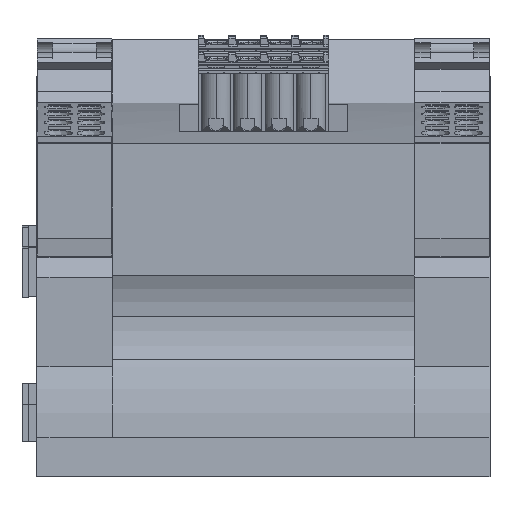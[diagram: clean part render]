
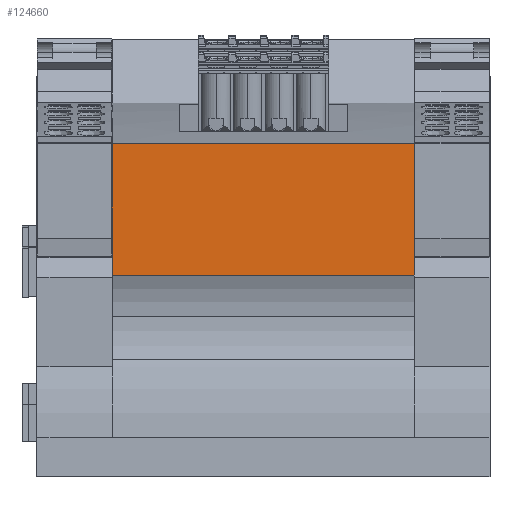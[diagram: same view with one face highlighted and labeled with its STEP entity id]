
A CAD part, front view. The second image highlights one B-rep face of the part: STEP entity #124660.
In plain terms, the highlighted planar face has unit normal (0, -1, 0) as drawn and (-1, 0, 0) by its records, which use the part's own axes.
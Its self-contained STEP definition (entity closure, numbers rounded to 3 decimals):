
#530=CARTESIAN_POINT('',(13.183,0.037,
-46.8));
#540=DIRECTION('',(0.,-1.,0.));
#550=VECTOR('',#540,1.);
#560=LINE('',#530,#550);
#570=CARTESIAN_POINT('',(13.183,67.671,
-46.8));
#580=VERTEX_POINT('',#570);
#590=CARTESIAN_POINT('',(13.183,47.726,
-46.8));
#600=VERTEX_POINT('',#590);
#610=EDGE_CURVE('',#580,#600,#560,.T.);
#124200=CARTESIAN_POINT('',(13.183,46.427,
-46.8));
#124210=DIRECTION('',(-1.,0.,0.));
#124220=DIRECTION('',(0.,-1.,0.));
#124230=AXIS2_PLACEMENT_3D('',#124200,#124210,#124220);
#124240=PLANE('',#124230);
#124250=CARTESIAN_POINT('',(13.183,0.037,1.8));
#124260=DIRECTION('',(0.,1.,0.));
#124270=VECTOR('',#124260,1.);
#124280=LINE('',#124250,#124270);
#124290=CARTESIAN_POINT('',(13.183,47.726,1.8));
#124300=VERTEX_POINT('',#124290);
#124310=CARTESIAN_POINT('',(13.183,67.671,1.8));
#124320=VERTEX_POINT('',#124310);
#124330=EDGE_CURVE('',#124300,#124320,#124280,.T.);
#124340=ORIENTED_EDGE('',*,*,#124330,.T.);
#124350=CARTESIAN_POINT('',(13.183,0.037,
1.8));
#124360=DIRECTION('',(0.,1.,0.));
#124370=VECTOR('',#124360,1.);
#124380=LINE('',#124350,#124370);
#124390=CARTESIAN_POINT('',(13.183,46.427,
1.8));
#124400=VERTEX_POINT('',#124390);
#124410=EDGE_CURVE('',#124400,#124300,#124380,.T.);
#124420=ORIENTED_EDGE('',*,*,#124410,.T.);
#124430=CARTESIAN_POINT('',(13.183,46.427,
-46.8));
#124440=DIRECTION('',(0.,0.,1.));
#124450=VECTOR('',#124440,1.);
#124460=LINE('',#124430,#124450);
#124470=CARTESIAN_POINT('',(13.183,46.427,-46.8));
#124480=VERTEX_POINT('',#124470);
#124490=EDGE_CURVE('',#124480,#124400,#124460,.T.);
#124500=ORIENTED_EDGE('',*,*,#124490,.T.);
#124510=CARTESIAN_POINT('',(13.183,0.037,-46.8));
#124520=DIRECTION('',(0.,-1.,0.));
#124530=VECTOR('',#124520,1.);
#124540=LINE('',#124510,#124530);
#124550=EDGE_CURVE('',#600,#124480,#124540,.T.);
#124560=ORIENTED_EDGE('',*,*,#124550,.T.);
#124570=ORIENTED_EDGE('',*,*,#610,.T.);
#124580=CARTESIAN_POINT('',(13.183,67.671,
-46.8));
#124590=DIRECTION('',(0.,0.,1.));
#124600=VECTOR('',#124590,1.);
#124610=LINE('',#124580,#124600);
#124620=EDGE_CURVE('',#580,#124320,#124610,.T.);
#124630=ORIENTED_EDGE('',*,*,#124620,.F.);
#124640=EDGE_LOOP('',(#124630,#124570,#124560,#124500,#124420,#124340));
#124650=FACE_OUTER_BOUND('',#124640,.T.);
#124660=ADVANCED_FACE('',(#124650),#124240,.T.);
